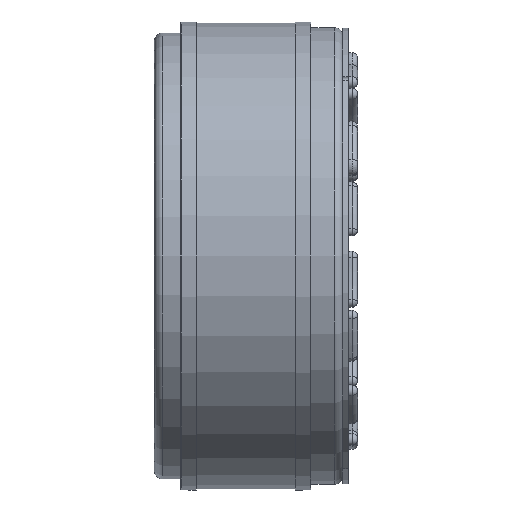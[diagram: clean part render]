
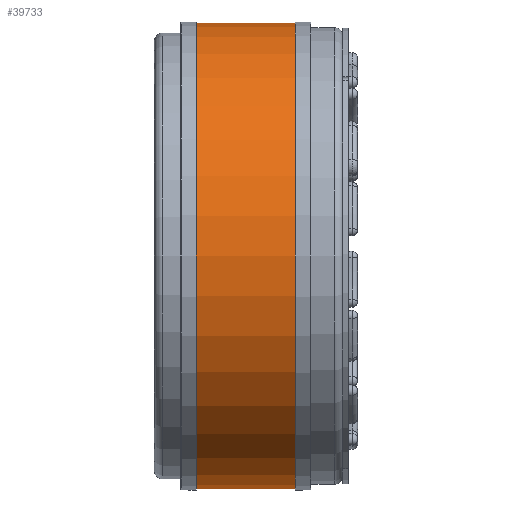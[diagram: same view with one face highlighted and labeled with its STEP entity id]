
A CAD part, front view. The second image highlights one B-rep face of the part: STEP entity #39733.
In plain terms, the highlighted cylindrical face has radius 42.3 mm (diameter 84.6 mm), a partial arc.
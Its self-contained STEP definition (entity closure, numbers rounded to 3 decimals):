
#979 = ORIENTED_EDGE ( 'NONE', *, *, #45812, .T. ) ;
#2067 = CIRCLE ( 'NONE', #38010, 42.3 ) ;
#2871 = LINE ( 'NONE', #36632, #41413 ) ;
#6273 = CARTESIAN_POINT ( 'NONE',  ( 25.6, 0., -42.3 ) ) ;
#7927 = CARTESIAN_POINT ( 'NONE',  ( 7.6, 0., -42.3 ) ) ;
#8893 = DIRECTION ( 'NONE',  ( -1., 0., 0. ) ) ;
#9106 = AXIS2_PLACEMENT_3D ( 'NONE', #31257, #8893, #35057 ) ;
#9545 = LINE ( 'NONE', #14814, #19439 ) ;
#10044 = CYLINDRICAL_SURFACE ( 'NONE', #13733, 42.3 ) ;
#11178 = FACE_OUTER_BOUND ( 'NONE', #12194, .T. ) ;
#12194 = EDGE_LOOP ( 'NONE', ( #17137, #14816, #979, #36436 ) ) ;
#13076 = CARTESIAN_POINT ( 'NONE',  ( 7.6, 0., 0. ) ) ;
#13344 = CARTESIAN_POINT ( 'NONE',  ( 25.6, 0., 42.3 ) ) ;
#13733 = AXIS2_PLACEMENT_3D ( 'NONE', #19510, #23339, #41950 ) ;
#14814 = CARTESIAN_POINT ( 'NONE',  ( 0., 0., 42.3 ) ) ;
#14816 = ORIENTED_EDGE ( 'NONE', *, *, #40346, .T. ) ;
#16800 = DIRECTION ( 'NONE',  ( 0., 0., 1. ) ) ;
#17137 = ORIENTED_EDGE ( 'NONE', *, *, #40619, .F. ) ;
#18585 = DIRECTION ( 'NONE',  ( -1., 0., 0. ) ) ;
#19439 = VECTOR ( 'NONE', #18585, 1000. ) ;
#19510 = CARTESIAN_POINT ( 'NONE',  ( 0., 0., 0. ) ) ;
#23339 = DIRECTION ( 'NONE',  ( -1., 0., 0. ) ) ;
#27182 = VERTEX_POINT ( 'NONE', #6273 ) ;
#31257 = CARTESIAN_POINT ( 'NONE',  ( 25.6, 0., 0. ) ) ;
#35057 = DIRECTION ( 'NONE',  ( 0., 0., 1. ) ) ;
#36225 = CIRCLE ( 'NONE', #9106, 42.3 ) ;
#36436 = ORIENTED_EDGE ( 'NONE', *, *, #38880, .F. ) ;
#36632 = CARTESIAN_POINT ( 'NONE',  ( 0., 0., -42.3 ) ) ;
#38010 = AXIS2_PLACEMENT_3D ( 'NONE', #13076, #39239, #16800 ) ;
#38880 = EDGE_CURVE ( 'NONE', #40725, #39452, #2067, .T. ) ;
#39239 = DIRECTION ( 'NONE',  ( -1., 0., 0. ) ) ;
#39452 = VERTEX_POINT ( 'NONE', #39664 ) ;
#39664 = CARTESIAN_POINT ( 'NONE',  ( 7.6, 0., 42.3 ) ) ;
#39733 = ADVANCED_FACE ( 'NONE', ( #11178 ), #10044, .T. ) ;
#40346 = EDGE_CURVE ( 'NONE', #27182, #47902, #36225, .T. ) ;
#40619 = EDGE_CURVE ( 'NONE', #27182, #40725, #2871, .T. ) ;
#40725 = VERTEX_POINT ( 'NONE', #7927 ) ;
#41413 = VECTOR ( 'NONE', #44137, 1000. ) ;
#41950 = DIRECTION ( 'NONE',  ( 0., 0., 1. ) ) ;
#44137 = DIRECTION ( 'NONE',  ( -1., 0., 0. ) ) ;
#45812 = EDGE_CURVE ( 'NONE', #47902, #39452, #9545, .T. ) ;
#47902 = VERTEX_POINT ( 'NONE', #13344 ) ;
